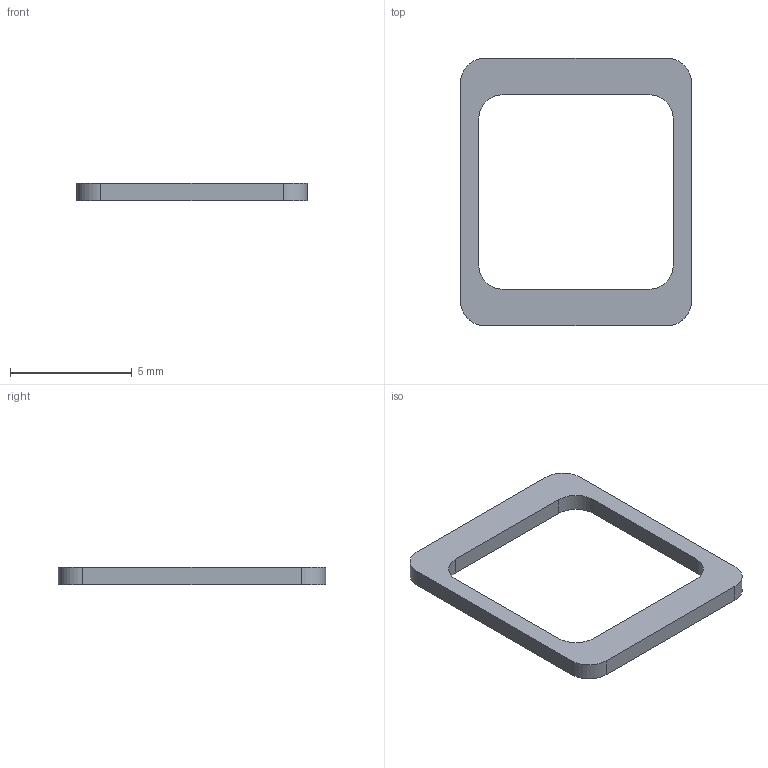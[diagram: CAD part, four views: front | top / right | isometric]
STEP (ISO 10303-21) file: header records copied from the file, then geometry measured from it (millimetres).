
FILE_DESCRIPTION(('HOOPS Exchange Step'),'2;1');
FILE_NAME('/private/var/mobile/Containers/Data/Application/40CBF64F-6639-4B2B-A208-5785F35D5F97/tmp/export/temp_export','2025-11-28T11:39:12+08:00',('mobile'),('Shapr3D Limited'),'HOOPS Exchange 2025.7','Shapr3D','Authorized');
FILE_SCHEMA( ('AP242_MANAGED_MODEL_BASED_3D_ENGINEERING_MIM_LF {1 0 10303 442 1 1 4}') );
Length unit declared in the file: millimetre
Products named in the file (1): root
Bounding box: 9.5 x 11 x 0.7 mm (x, y, z)
Volume: 28.3 mm3; surface area: 129.7 mm2
Topology: 1 solids, 1 shells, 18 faces, 48 edges, 32 vertices
Faces by surface type: plane 10, cylinder 8
Entity records: 608 total; most frequent: DIRECTION 104, CARTESIAN_POINT 100, ORIENTED_EDGE 96, EDGE_CURVE 48, AXIS2_PLACEMENT_3D 36, VERTEX_POINT 32, VECTOR 32, LINE 32
